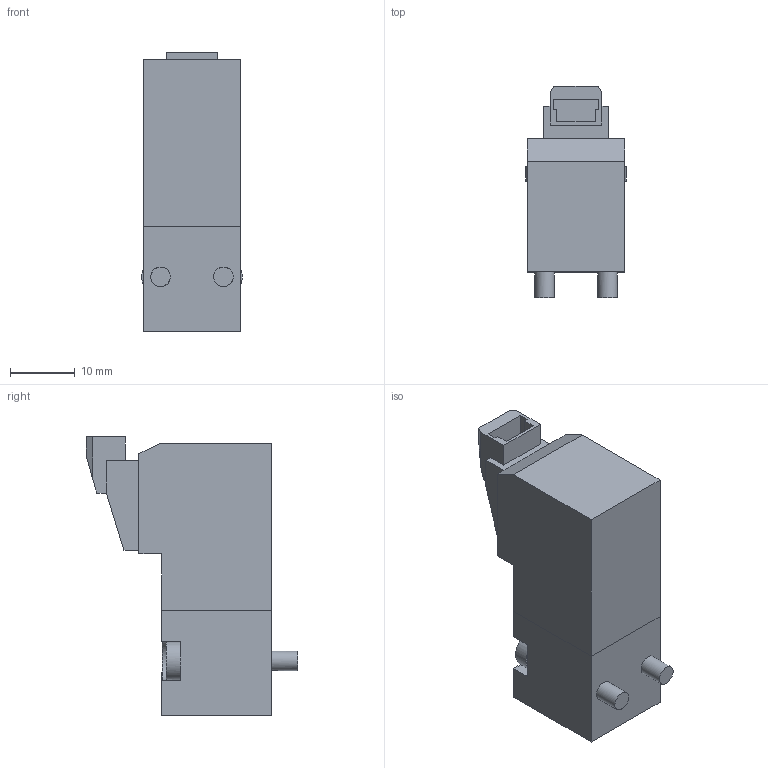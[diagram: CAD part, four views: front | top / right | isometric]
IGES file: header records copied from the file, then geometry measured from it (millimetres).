
Global section: file name: N3##_7#; native system: Autodesk Inventor 2014; preprocessor: unknown; author: A. Manieri; organization: Pneumax S.p.A.; date: 20160913.141959; units: millimetre
Bounding box: 15.5 x 32.6 x 42.97 mm (x, y, z)
Volume: 12259.9 mm3; surface area: 4106.2 mm2
Topology: 1 solids, 1 shells, 92 faces, 239 edges, 156 vertices
Faces by surface type: bspline 92
